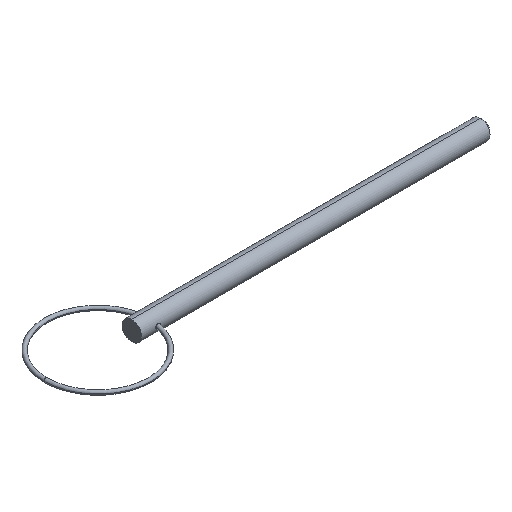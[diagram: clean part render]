
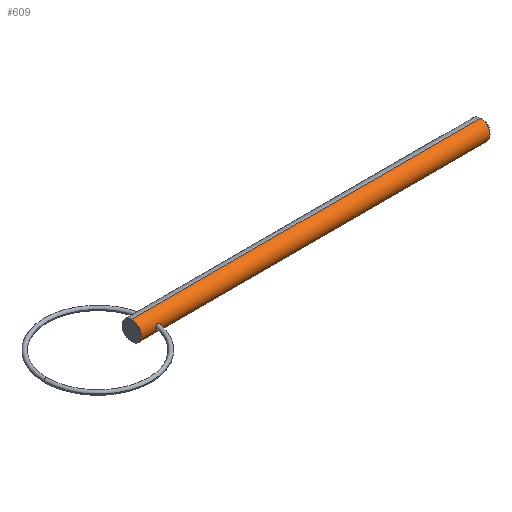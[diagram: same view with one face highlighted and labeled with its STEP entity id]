
A CAD part, isometric view. The second image highlights one B-rep face of the part: STEP entity #609.
In plain terms, the highlighted cylindrical face has radius 2.38 mm (diameter 4.76 mm), a partial arc.
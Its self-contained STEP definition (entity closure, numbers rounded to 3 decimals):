
#8 = EDGE_CURVE ( 'NONE', #433, #326, #719, .T. ) ;
#11 = CARTESIAN_POINT ( 'NONE',  ( 0., 0., 0. ) ) ;
#32 = CARTESIAN_POINT ( 'NONE',  ( 4.465, -2.322, 0.535 ) ) ;
#35 = CARTESIAN_POINT ( 'NONE',  ( 3.61, -2.362, -0.312 ) ) ;
#59 = CARTESIAN_POINT ( 'NONE',  ( 4.307, -2.304, 0.597 ) ) ;
#67 = FACE_OUTER_BOUND ( 'NONE', #520, .T. ) ;
#75 = AXIS2_PLACEMENT_3D ( 'NONE', #456, #705, #615 ) ;
#105 = DIRECTION ( 'NONE',  ( 0., 0., -1. ) ) ;
#107 = EDGE_CURVE ( 'NONE', #411, #511, #442, .T. ) ;
#108 = CARTESIAN_POINT ( 'NONE',  ( 3.538, -2.38, 0.159 ) ) ;
#112 = CARTESIAN_POINT ( 'NONE',  ( 3.991, -2.305, 0.592 ) ) ;
#121 = CARTESIAN_POINT ( 'NONE',  ( 4.75, -2.38, 0. ) ) ;
#143 = CARTESIAN_POINT ( 'NONE',  ( 4.75, -2.38, 0. ) ) ;
#159 = VERTEX_POINT ( 'NONE', #463 ) ;
#166 = ORIENTED_EDGE ( 'NONE', *, *, #247, .T. ) ;
#179 = CARTESIAN_POINT ( 'NONE',  ( 3.538, -2.38, 0. ) ) ;
#187 = LINE ( 'NONE', #561, #408 ) ;
#189 = EDGE_CURVE ( 'NONE', #159, #433, #267, .T. ) ;
#211 = ORIENTED_EDGE ( 'NONE', *, *, #560, .T. ) ;
#213 = CARTESIAN_POINT ( 'NONE',  ( 4.307, -2.304, -0.597 ) ) ;
#221 = ORIENTED_EDGE ( 'NONE', *, *, #189, .F. ) ;
#247 = EDGE_CURVE ( 'NONE', #159, #465, #723, .T. ) ;
#248 = DIRECTION ( 'NONE',  ( 0., 0., -1. ) ) ;
#261 = VECTOR ( 'NONE', #756, 1000. ) ;
#267 = LINE ( 'NONE', #507, #261 ) ;
#276 = CARTESIAN_POINT ( 'NONE',  ( 3.836, -2.323, -0.528 ) ) ;
#286 = EDGE_CURVE ( 'NONE', #511, #411, #306, .T. ) ;
#289 = CARTESIAN_POINT ( 'NONE',  ( 3.61, -2.362, 0.313 ) ) ;
#301 = AXIS2_PLACEMENT_3D ( 'NONE', #11, #684, #248 ) ;
#306 = B_SPLINE_CURVE_WITH_KNOTS ( 'NONE', 3,
 ( #179, #108, #289, #721, #112, #59, #32, #361, #353, #121 ),
 .UNSPECIFIED., .F., .F.,
 ( 4, 2, 2, 2, 4 ),
 ( 0., 0.001, 0.001, 0.002, 0.002 ),
 .UNSPECIFIED. ) ;
#314 = FACE_BOUND ( 'NONE', #576, .T. ) ;
#326 = VERTEX_POINT ( 'NONE', #602 ) ;
#328 = CARTESIAN_POINT ( 'NONE',  ( 3.538, -2.38, 0. ) ) ;
#342 = CARTESIAN_POINT ( 'NONE',  ( 3.992, -2.305, -0.592 ) ) ;
#353 = CARTESIAN_POINT ( 'NONE',  ( 4.75, -2.38, 0.157 ) ) ;
#361 = CARTESIAN_POINT ( 'NONE',  ( 4.687, -2.362, 0.314 ) ) ;
#397 = CARTESIAN_POINT ( 'NONE',  ( 3.538, -2.38, -0.159 ) ) ;
#400 = ORIENTED_EDGE ( 'NONE', *, *, #286, .T. ) ;
#408 = VECTOR ( 'NONE', #686, 1000. ) ;
#411 = VERTEX_POINT ( 'NONE', #604 ) ;
#433 = VERTEX_POINT ( 'NONE', #551 ) ;
#441 = CARTESIAN_POINT ( 'NONE',  ( 3.538, -2.38, 0. ) ) ;
#442 = B_SPLINE_CURVE_WITH_KNOTS ( 'NONE', 3,
 ( #143, #577, #523, #586, #213, #342, #276, #35, #397, #328 ),
 .UNSPECIFIED., .F., .F.,
 ( 4, 2, 2, 2, 4 ),
 ( 0.002, 0.003, 0.003, 0.004, 0.004 ),
 .UNSPECIFIED. ) ;
#443 = CYLINDRICAL_SURFACE ( 'NONE', #301, 2.38 ) ;
#456 = CARTESIAN_POINT ( 'NONE',  ( 0., 0., 0. ) ) ;
#463 = CARTESIAN_POINT ( 'NONE',  ( 0., 0., 2.38 ) ) ;
#465 = VERTEX_POINT ( 'NONE', #744 ) ;
#507 = CARTESIAN_POINT ( 'NONE',  ( 0., 0., 2.38 ) ) ;
#511 = VERTEX_POINT ( 'NONE', #441 ) ;
#520 = EDGE_LOOP ( 'NONE', ( #221, #166, #211, #563 ) ) ;
#523 = CARTESIAN_POINT ( 'NONE',  ( 4.687, -2.362, -0.314 ) ) ;
#528 = CARTESIAN_POINT ( 'NONE',  ( 85.435, 0., 0. ) ) ;
#551 = CARTESIAN_POINT ( 'NONE',  ( 85.435, 0., 2.38 ) ) ;
#560 = EDGE_CURVE ( 'NONE', #465, #326, #187, .T. ) ;
#561 = CARTESIAN_POINT ( 'NONE',  ( 0., 0., -2.38 ) ) ;
#563 = ORIENTED_EDGE ( 'NONE', *, *, #8, .F. ) ;
#576 = EDGE_LOOP ( 'NONE', ( #400, #680 ) ) ;
#577 = CARTESIAN_POINT ( 'NONE',  ( 4.75, -2.38, -0.157 ) ) ;
#586 = CARTESIAN_POINT ( 'NONE',  ( 4.464, -2.322, -0.536 ) ) ;
#602 = CARTESIAN_POINT ( 'NONE',  ( 85.435, 0., -2.38 ) ) ;
#604 = CARTESIAN_POINT ( 'NONE',  ( 4.75, -2.38, 0. ) ) ;
#607 = AXIS2_PLACEMENT_3D ( 'NONE', #528, #655, #105 ) ;
#609 = ADVANCED_FACE ( 'NONE', ( #67, #314 ), #443, .T. ) ;
#615 = DIRECTION ( 'NONE',  ( 0., 0., -1. ) ) ;
#655 = DIRECTION ( 'NONE',  ( 1., 0., 0. ) ) ;
#680 = ORIENTED_EDGE ( 'NONE', *, *, #107, .T. ) ;
#684 = DIRECTION ( 'NONE',  ( 1., 0., 0. ) ) ;
#686 = DIRECTION ( 'NONE',  ( 1., 0., 0. ) ) ;
#705 = DIRECTION ( 'NONE',  ( 1., 0., 0. ) ) ;
#719 = CIRCLE ( 'NONE', #607, 2.38 ) ;
#721 = CARTESIAN_POINT ( 'NONE',  ( 3.836, -2.323, 0.528 ) ) ;
#723 = CIRCLE ( 'NONE', #75, 2.38 ) ;
#744 = CARTESIAN_POINT ( 'NONE',  ( 0., 0., -2.38 ) ) ;
#756 = DIRECTION ( 'NONE',  ( 1., 0., 0. ) ) ;
